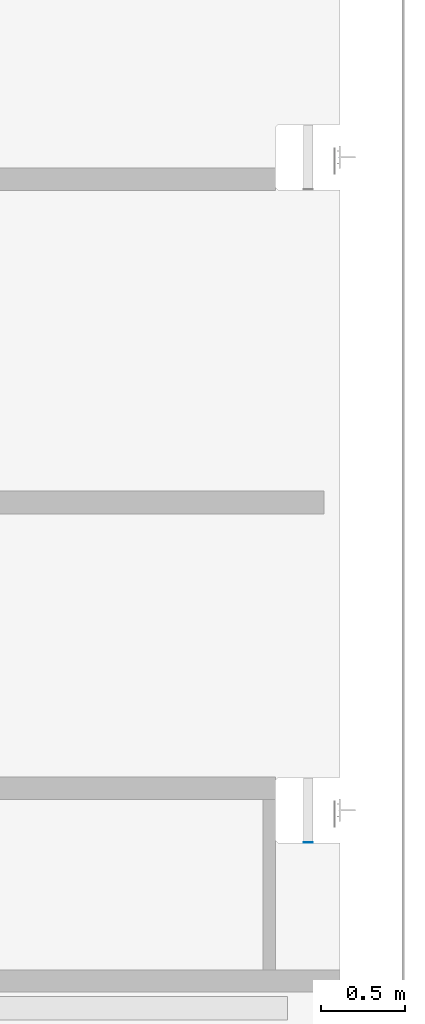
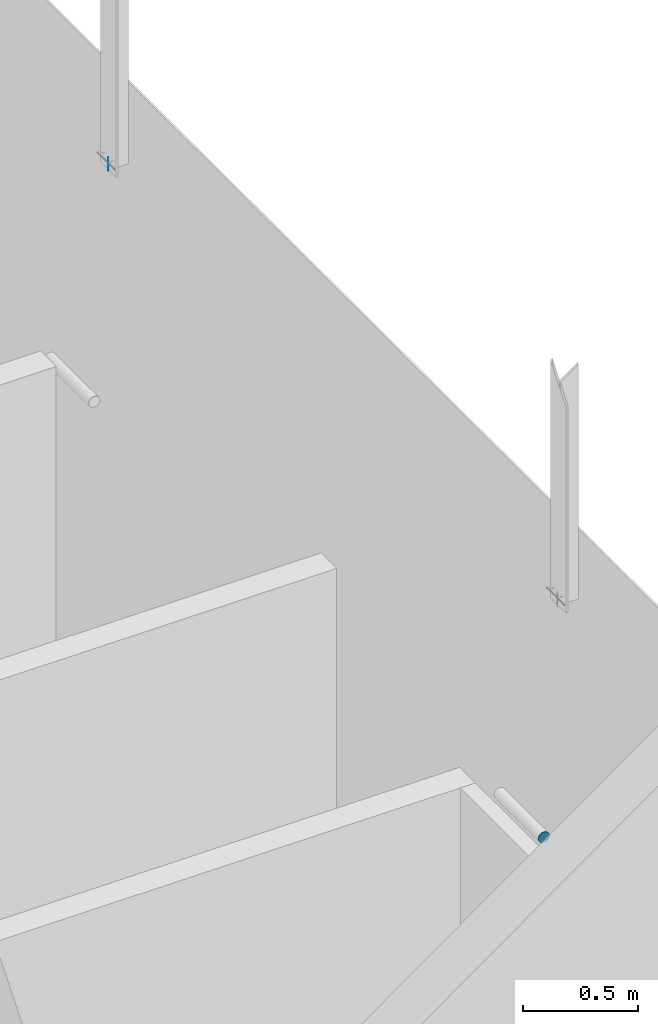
# One storey, part 90 of 186: 2 beams.
"""IFC4X3_ADD2 building model written with IfcOpenShell, lengths in millimetres."""

from ifc_helpers import new_model, si_unit, direction, frame, frame_2d, origin_with_axes, place, context, subcontext, project, spatial, indexed_curve, rectangle, outline, extrude, material, element, save


model = new_model("IFC4X3_ADD2")

# Units and contexts
model_context = context("Model", 3, precision=1e-05, world=origin_with_axes(), true_north=direction((0.0, 1.0)))
body_context = subcontext(model_context, "Body", "Model", "MODEL_VIEW")
ifc_project = project(units=[si_unit("LENGTHUNIT", "METRE", prefix="MILLI"), si_unit("AREAUNIT", "SQUARE_METRE"), si_unit("VOLUMEUNIT", "CUBIC_METRE"), si_unit("PLANEANGLEUNIT", "RADIAN"), si_unit("TIMEUNIT", "SECOND"), si_unit("MASSUNIT", "GRAM")], contexts=[model_context])

# Site, building, storey
site_placement = place(None, origin_with_axes())
site = spatial("IfcSite", under=ifc_project, at=site_placement, Name="Site", CompositionType="ELEMENT")
building_placement = place(site_placement, origin_with_axes())
building = spatial("IfcBuilding", under=site, at=building_placement, Name="IFC Building Story")
storey_placement = place(building_placement, frame((0.0, 0.0, 4370.0), z_axis=(0.0, 0.0, 1.0), x_axis=(1.0, 0.0, 0.0)))
storey = spatial("IfcBuildingStorey", under=building, at=storey_placement, Name="ETAGE 10 (1)", Elevation=4370.0)

# Beams
ifc_material_1 = material(Name="STEEL/Accessory_invisible")
beam_1_placement = place(storey_placement, frame((48494.7886362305, 8710.00061090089, 3822.0), z_axis=(-1.0, 0.0, 0.0), x_axis=(0.0, 0.0, 1.0)))
element("IfcBeam", 1, at=beam_1_placement, inside=storey, material=ifc_material_1, Name="ZW1", ObjectType="1*1 10", context=body_context, shape_type="SweptSolid", body=[
    extrude(rectangle(XDim=70.0000000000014, YDim=1.0, at=frame_2d((0.0, 5.95523630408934e-12), x_axis=(1.0, 0.0))), origin_with_axes(), (0.0, 0.0, 1.0), 1.0),
])
ifc_material_2 = material(Name="STEEL/Accessory 22919")
beam_2_placement = place(storey_placement, frame((48311.18863623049, 4608.000610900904, 2800.781999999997), z_axis=(0.0, -1.0, 0.0), x_axis=(-0.1950903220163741, 0.0, 0.9807852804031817)))
element("IfcBeam", 2, at=beam_2_placement, inside=storey, material=ifc_material_2, Name="TA4", ObjectType="D56", context=body_context, shape_type="SweptSolid", body=[
    extrude(outline(indexed_curve([(23.28114914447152, 15.55596652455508), (27.46198785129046, 5.462529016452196), (27.46198785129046, -5.462529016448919), (23.28114914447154, -15.55596652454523), (15.55596652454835, -23.28114914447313), (5.462529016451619, -27.46198785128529), (-5.462529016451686, -27.46198785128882), (-15.55596652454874, -23.28114914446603), (-23.2811491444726, -15.55596652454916), (-27.46198785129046, -5.462529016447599), (-27.46198785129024, 5.462529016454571), (-23.28114914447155, 15.55596652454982), (-15.55596652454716, 23.28114914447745), (-5.462529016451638, 27.46198785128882), (5.462529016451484, 27.46198785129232), (15.55596652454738, 23.28114914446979), (23.28114914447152, 15.55596652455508)])), origin_with_axes(), (0.0, 0.0, 1.0), 3.000000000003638),
])

save(model, "model.ifc")
